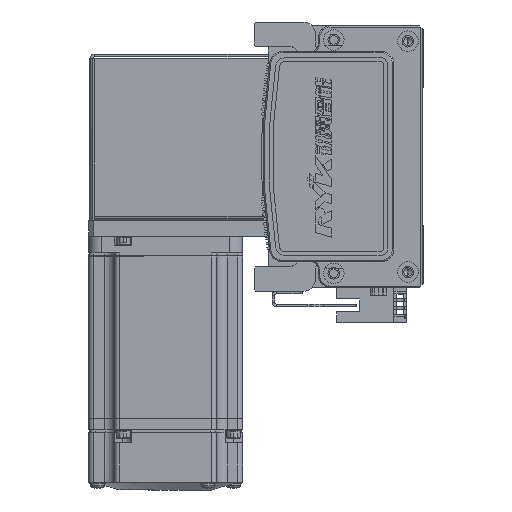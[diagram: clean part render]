
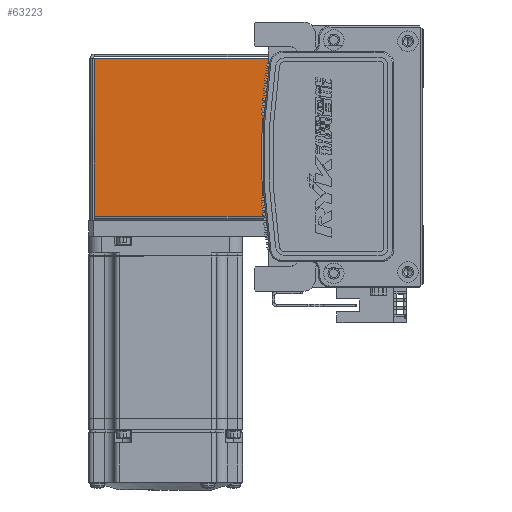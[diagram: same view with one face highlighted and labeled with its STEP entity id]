
A CAD part, left-side view. The second image highlights one B-rep face of the part: STEP entity #63223.
In plain terms, the highlighted planar face has unit normal (-1, 0, 0) as drawn and (0, 0, 1) by its records, which use the part's own axes.
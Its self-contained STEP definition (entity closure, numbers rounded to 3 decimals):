
#5251 = EDGE_CURVE ( 'NONE', #46290, #6826, #62531, .T. ) ;
#6507 = AXIS2_PLACEMENT_3D ( 'NONE', #70534, #31288, #42373 ) ;
#6826 = VERTEX_POINT ( 'NONE', #14840 ) ;
#7553 = CARTESIAN_POINT ( 'NONE',  ( -30.793, 0.737, 35. ) ) ;
#8106 = LINE ( 'NONE', #31261, #27923 ) ;
#9464 = ORIENTED_EDGE ( 'NONE', *, *, #34463, .T. ) ;
#14468 = PLANE ( 'NONE',  #6507 ) ;
#14840 = CARTESIAN_POINT ( 'NONE',  ( -30.793, 68.5, 35. ) ) ;
#15634 = CARTESIAN_POINT ( 'NONE',  ( 30.763, 68.5, 35. ) ) ;
#20675 = CARTESIAN_POINT ( 'NONE',  ( -32.5, 0.737, 35. ) ) ;
#22354 = CARTESIAN_POINT ( 'NONE',  ( 0., 68.5, 35. ) ) ;
#24332 = VERTEX_POINT ( 'NONE', #15634 ) ;
#26188 = DIRECTION ( 'NONE',  ( -1., 0., 0. ) ) ;
#27923 = VECTOR ( 'NONE', #36618, 1000. ) ;
#31261 = CARTESIAN_POINT ( 'NONE',  ( 30.763, 0.737, 35. ) ) ;
#31288 = DIRECTION ( 'NONE',  ( 0., 0., -1. ) ) ;
#34463 = EDGE_CURVE ( 'NONE', #24332, #6826, #63077, .T. ) ;
#35851 = VECTOR ( 'NONE', #60533, 1000. ) ;
#36618 = DIRECTION ( 'NONE',  ( 0., 1., 0. ) ) ;
#38194 = CARTESIAN_POINT ( 'NONE',  ( 30.763, 0.737, 35. ) ) ;
#39191 = DIRECTION ( 'NONE',  ( -1., 0., 0. ) ) ;
#39852 = LINE ( 'NONE', #20675, #52785 ) ;
#40637 = EDGE_CURVE ( 'NONE', #44389, #24332, #8106, .T. ) ;
#42373 = DIRECTION ( 'NONE',  ( -1., 0., 0. ) ) ;
#44389 = VERTEX_POINT ( 'NONE', #38194 ) ;
#46290 = VERTEX_POINT ( 'NONE', #7553 ) ;
#46956 = FACE_OUTER_BOUND ( 'NONE', #67595, .T. ) ;
#49533 = ORIENTED_EDGE ( 'NONE', *, *, #56561, .F. ) ;
#52785 = VECTOR ( 'NONE', #26188, 1000. ) ;
#56561 = EDGE_CURVE ( 'NONE', #44389, #46290, #39852, .T. ) ;
#60533 = DIRECTION ( 'NONE',  ( 0., 1., 0. ) ) ;
#62531 = LINE ( 'NONE', #64895, #35851 ) ;
#63077 = LINE ( 'NONE', #22354, #67330 ) ;
#63223 = ADVANCED_FACE ( 'NONE', ( #46956 ), #14468, .F. ) ;
#64895 = CARTESIAN_POINT ( 'NONE',  ( -30.793, 0., 35. ) ) ;
#66472 = ORIENTED_EDGE ( 'NONE', *, *, #40637, .T. ) ;
#67330 = VECTOR ( 'NONE', #39191, 1000. ) ;
#67595 = EDGE_LOOP ( 'NONE', ( #66472, #9464, #68384, #49533 ) ) ;
#68384 = ORIENTED_EDGE ( 'NONE', *, *, #5251, .F. ) ;
#70534 = CARTESIAN_POINT ( 'NONE',  ( 0., 0., 35. ) ) ;
